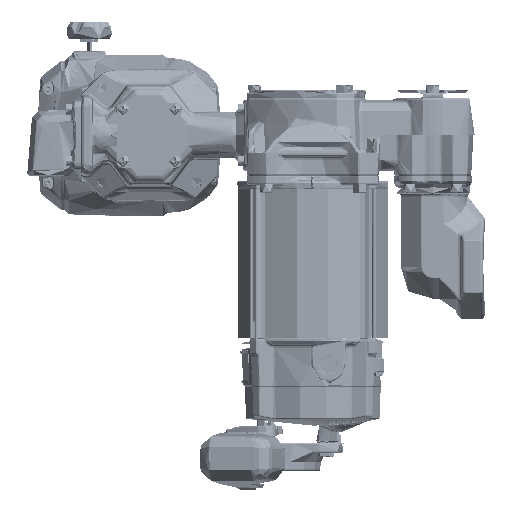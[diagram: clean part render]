
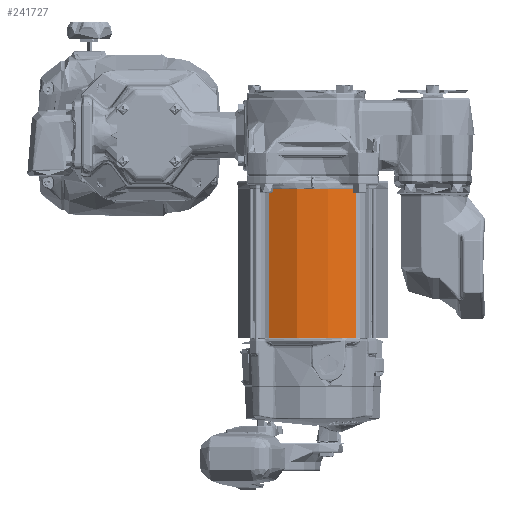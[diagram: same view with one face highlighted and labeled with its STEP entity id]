
A CAD part, left-side view. The second image highlights one B-rep face of the part: STEP entity #241727.
In plain terms, the highlighted cylindrical face has radius 74.93 mm (diameter 149.86 mm), a partial arc.
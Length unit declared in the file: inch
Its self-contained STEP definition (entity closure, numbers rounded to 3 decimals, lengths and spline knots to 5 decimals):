
#30798=FACE_OUTER_BOUND('',#45438,.T.);
#45438=EDGE_LOOP('',(#175063,#175064,#175065,#175066));
#74447=CIRCLE('',#257200,2.95);
#74835=CIRCLE('',#257808,2.95);
#86855=LINE('',#418996,#95295);
#86856=LINE('',#418998,#95296);
#95295=VECTOR('',#284965,0.3937);
#95296=VECTOR('',#284968,0.3937);
#105052=VERTEX_POINT('',#400939);
#105053=VERTEX_POINT('',#400941);
#105856=VERTEX_POINT('',#418879);
#105857=VERTEX_POINT('',#418881);
#130477=EDGE_CURVE('',#105053,#105052,#74447,.T.);
#131777=EDGE_CURVE('',#105857,#105856,#74835,.T.);
#131836=EDGE_CURVE('',#105052,#105857,#86855,.T.);
#131837=EDGE_CURVE('',#105053,#105856,#86856,.T.);
#175063=ORIENTED_EDGE('',*,*,#131777,.T.);
#175064=ORIENTED_EDGE('',*,*,#131837,.F.);
#175065=ORIENTED_EDGE('',*,*,#130477,.T.);
#175066=ORIENTED_EDGE('',*,*,#131836,.T.);
#236999=CYLINDRICAL_SURFACE('',#257865,2.95);
#241727=ADVANCED_FACE('',(#30798),#236999,.T.);
#257200=AXIS2_PLACEMENT_3D('',#400942,#283245,#283246);
#257808=AXIS2_PLACEMENT_3D('',#418882,#284797,#284798);
#257865=AXIS2_PLACEMENT_3D('',#418997,#284966,#284967);
#283245=DIRECTION('center_axis',(0.,0.,
-1.));
#283246=DIRECTION('ref_axis',(1.,0.,0.));
#284797=DIRECTION('center_axis',(0.,0.,
1.));
#284798=DIRECTION('ref_axis',(1.,0.,0.));
#284965=DIRECTION('',(0.,0.,-1.));
#284966=DIRECTION('center_axis',(0.,0.,
-1.));
#284967=DIRECTION('ref_axis',(-1.,0.,0.));
#284968=DIRECTION('',(0.,0.,-1.));
#400939=CARTESIAN_POINT('',(-2.4228,1.68301,-2.4985));
#400941=CARTESIAN_POINT('',(-2.4228,-1.68301,-2.4985));
#400942=CARTESIAN_POINT('Origin',(0.,0.,
-2.4985));
#418879=CARTESIAN_POINT('',(-2.4228,-1.68301,-8.2485));
#418881=CARTESIAN_POINT('',(-2.4228,1.68301,-8.2485));
#418882=CARTESIAN_POINT('Origin',(0.,0.,
-8.2485));
#418996=CARTESIAN_POINT('',(-2.4228,1.68301,-2.4985));
#418997=CARTESIAN_POINT('Origin',(0.,0.,
-2.4985));
#418998=CARTESIAN_POINT('',(-2.4228,-1.68301,-2.4985));
